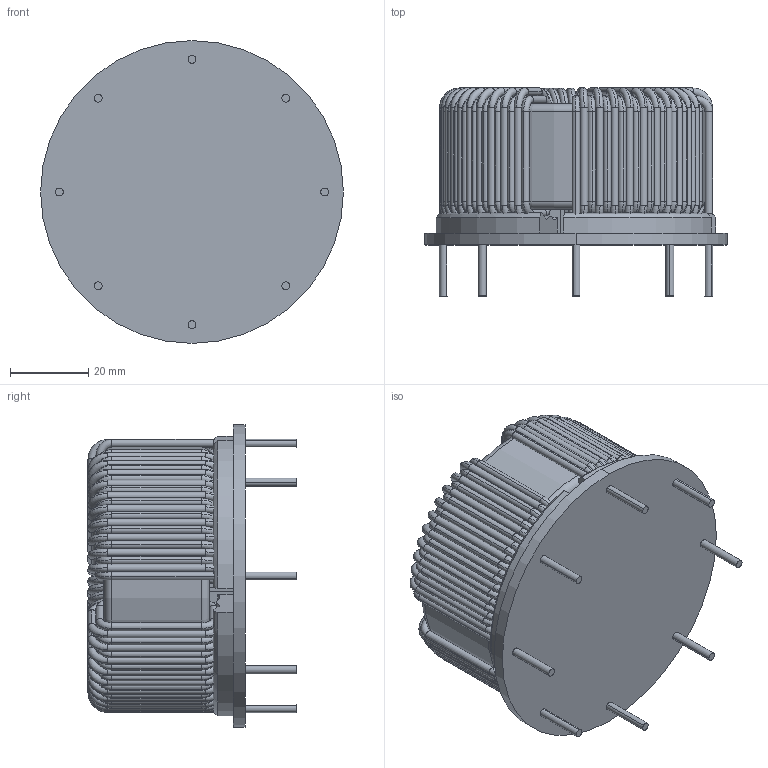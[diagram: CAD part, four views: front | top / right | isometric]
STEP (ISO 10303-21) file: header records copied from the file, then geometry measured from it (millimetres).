
FILE_DESCRIPTION (( 'STEP AP203' ), '1' );
FILE_NAME ('FPB-423U-B25A.STEP', '2020-07-23T14:30:55', ( 'Windows User' ), ( '' ), 'SwSTEP 2.0', 'SolidWorks 2015', '' );
FILE_SCHEMA (( 'CONFIG_CONTROL_DESIGN' ));
Length unit declared in the file: inch
Products named in the file (6): FPB-423U-B25A; FPB-423U-B25A - EPOXY; FPB-423U-B25A - CORE; FPB-423U-B25A - SPACER; FPB-423U-B25A - COIL; FPB-423U-B25A - FRAME
Assembly tree (5 placements, depth 2):
  FPB-423U-B25A
    FPB-423U-B25A - CORE
    FPB-423U-B25A - COIL
    FPB-423U-B25A - FRAME
    FPB-423U-B25A - SPACER
    FPB-423U-B25A - EPOXY
Bounding box: 77.6 x 53.34 x 77.6 mm (x, y, z)
Volume: 111105.5 mm3; surface area: 85203.3 mm2
Topology: 115 solids, 115 shells, 1908 faces, 4682 edges, 2988 vertices
Faces by surface type: cylinder 934, torus 688, plane 242, bspline 44
Entity records: 62218 total; most frequent: CARTESIAN_POINT 13782, DIRECTION 11886, ORIENTED_EDGE 9332, AXIS2_PLACEMENT_3D 5452, EDGE_CURVE 4666, CIRCLE 3580, VERTEX_POINT 2988, EDGE_LOOP 1926
